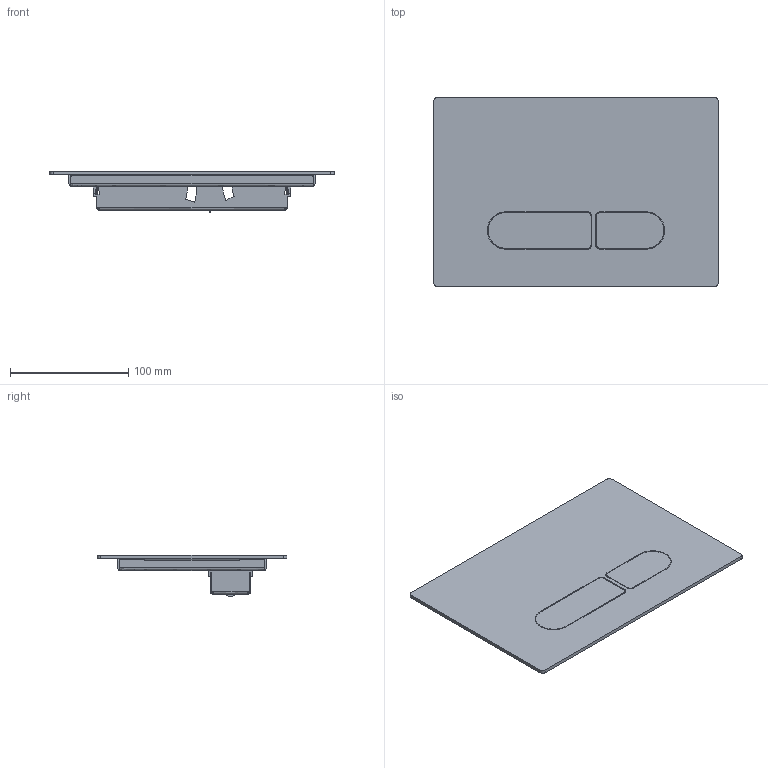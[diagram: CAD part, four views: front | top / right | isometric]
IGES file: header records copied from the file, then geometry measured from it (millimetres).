
Start section:  PTC IGES file: 90982.igs
Global section: file name: 90982.igs; native system: Creo Parametric by PTC Inc.; preprocessor: 2022014; author: carloff; organization: Unknown; date: 20230921.143036; units: millimetre
Bounding box: 240 x 160 x 35.08 mm (x, y, z)
Surface area: 170446.6 mm2 (no closed solid volume)
Topology: 0 solids, 0 shells, 731 faces, 4250 edges, 4250 vertices
Faces by surface type: revolution 375, bspline 356
